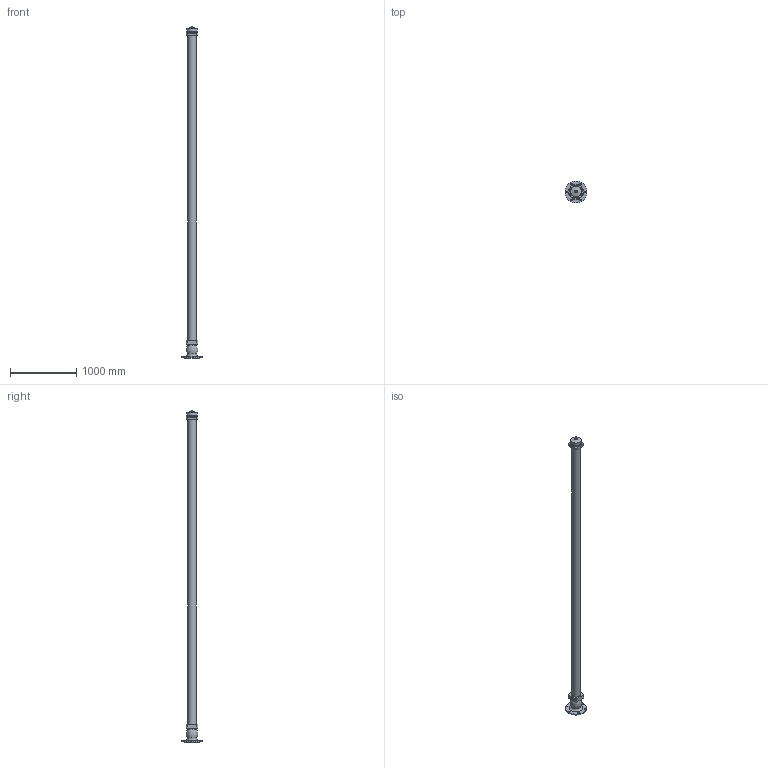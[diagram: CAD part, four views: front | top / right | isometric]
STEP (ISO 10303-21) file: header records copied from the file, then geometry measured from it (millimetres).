
FILE_DESCRIPTION(('STEP AP203'), '1');
FILE_NAME('Ãèäðàíò GPP 5000 ïîæàðíûé ïîäçåìíûé', '', ('UNSPECIFIED'), ('UNSPECIFIED'), 'ASCON STEP Converter 1.6', 'ASCON Math Kernel', '');
FILE_SCHEMA(('CONFIG_CONTROL_DESIGN'));
Length unit declared in the file: millimetre
Bounding box: 330 x 330 x 5022 mm (x, y, z)
Volume: 70018091.5 mm3; surface area: 2326644.2 mm2
Topology: 1 solids, 1 shells, 47 faces, 104 edges, 67 vertices
Faces by surface type: plane 26, cylinder 12, cone 7, torus 2
Full cylindrical faces by diameter (mm): 20 x1, 22 x6, 129 x1, 142 x1, 143 x1, 157.302 x1, 160 x1
Entity records: 1617 total; most frequent: DIRECTION 212, CARTESIAN_POINT 196, ORIENTED_EDGE 164, EDGE_LOOP 88, AXIS2_PLACEMENT_3D 82, EDGE_CURVE 82, VERTEX_POINT 66, COLOUR_RGB 48
